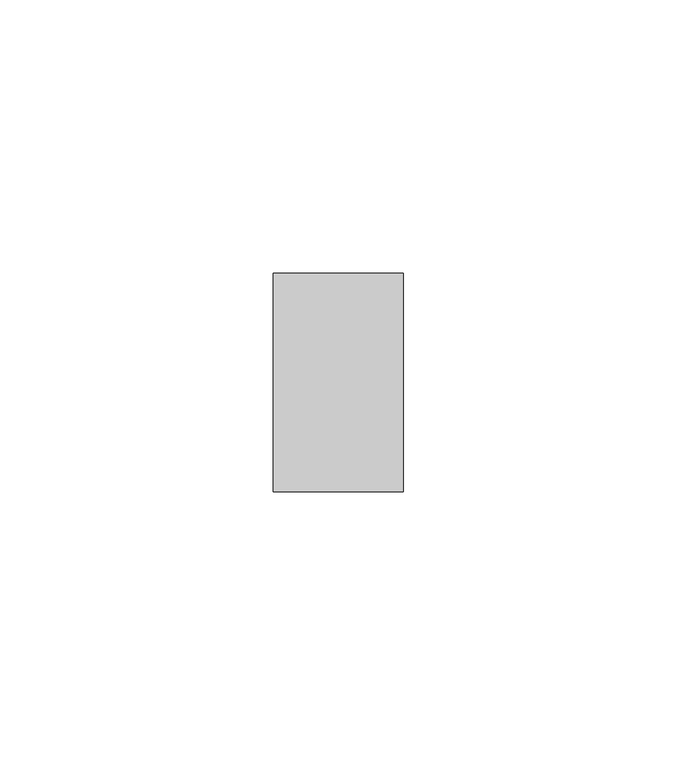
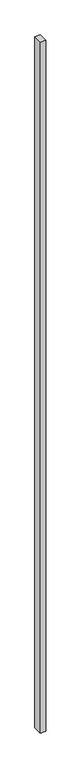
"""IFC4 building model written with IfcOpenShell, lengths in millimetres: plate geometry, Vitré."""

from ifc_helpers import new_model, si_unit, origin, origin_with_axes, place, context, project, spatial, polyline, outline, extrude, source, transform, mapped, element, save


def plate_c2a035e9(model_context):
    return source(origin(), model_context, "Body", "SweptSolid", [
        extrude(outline(polyline([(-11.9062498, -20.0), (-11.9062498, 20.0), (11.9062498, 20.0), (11.9062498, -20.0), (-11.9062498, -20.0)])), origin_with_axes(), (0.0, 0.0, 1.0), 3130.0),
    ])


if __name__ == "__main__":
    model = new_model("IFC4")
    model_context = context("Model", 3, world=origin())
    ifc_project = project(units=[si_unit("LENGTHUNIT", "METRE", prefix="MILLI")], contexts=[model_context])
    site = spatial("IfcSite", under=ifc_project)
    building = spatial("IfcBuilding", under=site)
    placement = place(None, origin())
    plate_shape = plate_c2a035e9(model_context)
    element("IfcPlate", 1, ObjectType="Vitré", at=placement, inside=building, context=model_context, shape_type="MappedRepresentation", body=[
        mapped(plate_shape, transform((0.0, 0.0, 0.0), x_axis=(1.0, 0.0, 0.0), y_axis=(0.0, 1.0, 0.0), z_axis=(0.0, 0.0, 1.0))),
    ])
    save(model, "model.ifc")
